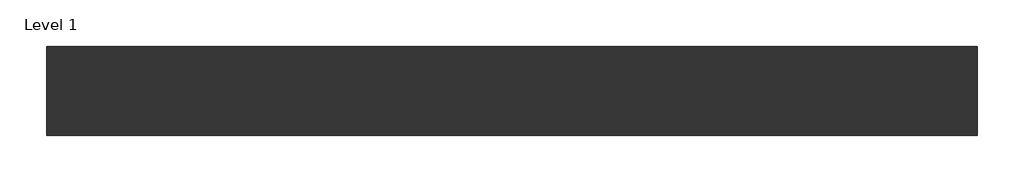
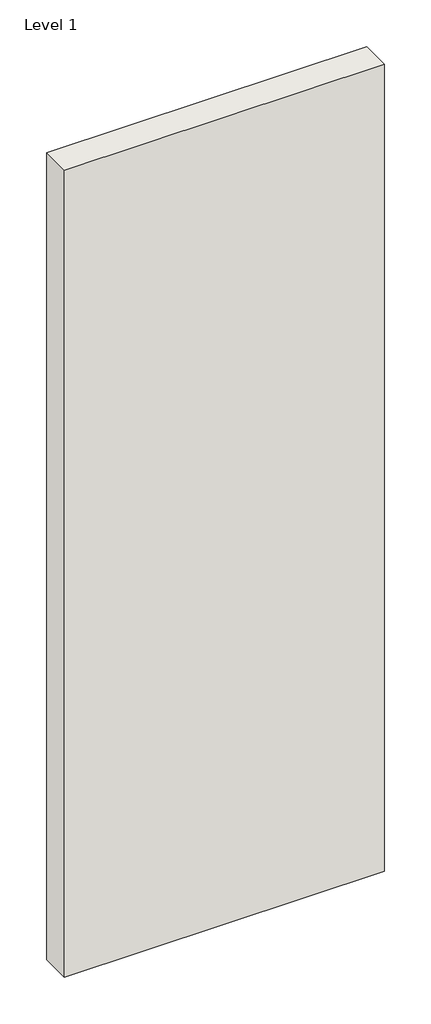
# One storey: 1 wall.
"""IFC4 building model written with IfcOpenShell, lengths in millimetres."""

from ifc_helpers import new_model, si_unit, origin, origin_with_axes, place, context, project, spatial, polyline, outline, extrude, element, save

model = new_model("IFC4")

# Units and contexts
model_context = context("Model", 3, world=origin())
ifc_project = project(units=[si_unit("LENGTHUNIT", "METRE", prefix="MILLI")], contexts=[model_context])

# Site, building, storey
site = spatial("IfcSite", under=ifc_project)
building = spatial("IfcBuilding", under=site)
storey = spatial("IfcBuildingStorey", under=building, Name="Level 1", Elevation=0.0)

# Wall
placement = place(None, origin())
element("IfcWall", 1, ObjectType="Trasdosado Placo® 95(70) 2xBA13 + 70LM c/600", at=placement, inside=storey, context=model_context, shape_type="SweptSolid", body=[
    extrude(outline(polyline([(-28676.4711674, -83779.3970389), (-29876.4711674, -83779.3970389), (-29876.4711674, -83664.3970389), (-28676.4711674, -83664.3970389), (-28676.4711674, -83779.3970389)])), origin_with_axes(), (0.0, 0.0, 1.0), 3200.0),
])

save(model, "model.ifc")
